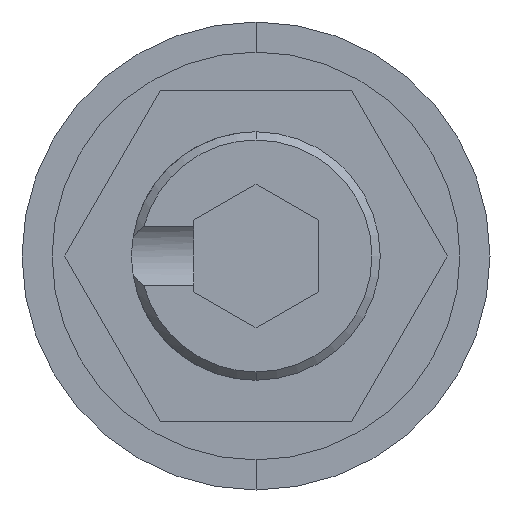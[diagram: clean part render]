
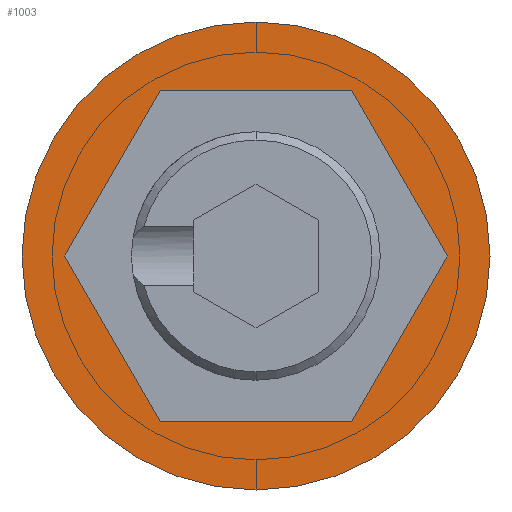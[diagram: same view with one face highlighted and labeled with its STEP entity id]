
A CAD part, front view. The second image highlights one B-rep face of the part: STEP entity #1003.
In plain terms, the highlighted planar face has unit normal (0, -1, 0).
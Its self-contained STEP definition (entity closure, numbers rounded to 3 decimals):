
#20 = LINE ( 'NONE', #1036, #394 ) ;
#86 = LINE ( 'NONE', #664, #876 ) ;
#101 = AXIS2_PLACEMENT_3D ( 'NONE', #852, #865, #2114 ) ;
#127 = FACE_BOUND ( 'NONE', #962, .T. ) ;
#132 = VERTEX_POINT ( 'NONE', #665 ) ;
#163 = EDGE_CURVE ( 'NONE', #1213, #132, #758, .T. ) ;
#243 = VERTEX_POINT ( 'NONE', #292 ) ;
#251 = DIRECTION ( 'NONE',  ( -1., 0., 0. ) ) ;
#272 = CARTESIAN_POINT ( 'NONE',  ( -2.309, 0., -4. ) ) ;
#286 = CARTESIAN_POINT ( 'NONE',  ( 2.309, 0., 4. ) ) ;
#292 = CARTESIAN_POINT ( 'NONE',  ( -2.309, 0., -4. ) ) ;
#297 = CARTESIAN_POINT ( 'NONE',  ( 0., 0., -5.65 ) ) ;
#300 = LINE ( 'NONE', #846, #2062 ) ;
#307 = EDGE_CURVE ( 'NONE', #697, #375, #882, .T. ) ;
#375 = VERTEX_POINT ( 'NONE', #1508 ) ;
#377 = ORIENTED_EDGE ( 'NONE', *, *, #1811, .T. ) ;
#394 = VECTOR ( 'NONE', #1522, 1000. ) ;
#434 = DIRECTION ( 'NONE',  ( 1., 0., 0. ) ) ;
#638 = ORIENTED_EDGE ( 'NONE', *, *, #163, .T. ) ;
#664 = CARTESIAN_POINT ( 'NONE',  ( 2.309, 0., -4. ) ) ;
#665 = CARTESIAN_POINT ( 'NONE',  ( 0., 0., 5.65 ) ) ;
#697 = VERTEX_POINT ( 'NONE', #730 ) ;
#709 = CARTESIAN_POINT ( 'NONE',  ( -4.619, 0., 0. ) ) ;
#730 = CARTESIAN_POINT ( 'NONE',  ( 4.619, 0., 0. ) ) ;
#748 = LINE ( 'NONE', #286, #1135 ) ;
#758 = CIRCLE ( 'NONE', #101, 5.65 ) ;
#768 = CIRCLE ( 'NONE', #1265, 5.65 ) ;
#776 = DIRECTION ( 'NONE',  ( 0.5, 0., 0.866 ) ) ;
#785 = ORIENTED_EDGE ( 'NONE', *, *, #1232, .F. ) ;
#792 = EDGE_LOOP ( 'NONE', ( #638, #377 ) ) ;
#846 = CARTESIAN_POINT ( 'NONE',  ( -2.309, 0., 4. ) ) ;
#852 = CARTESIAN_POINT ( 'NONE',  ( 0., 0., 0. ) ) ;
#865 = DIRECTION ( 'NONE',  ( 0., -1., 0. ) ) ;
#876 = VECTOR ( 'NONE', #776, 1000. ) ;
#879 = VERTEX_POINT ( 'NONE', #1078 ) ;
#882 = LINE ( 'NONE', #1064, #1169 ) ;
#902 = ORIENTED_EDGE ( 'NONE', *, *, #307, .F. ) ;
#962 = EDGE_LOOP ( 'NONE', ( #1099, #1299, #1189, #1082, #902, #785 ) ) ;
#976 = VERTEX_POINT ( 'NONE', #709 ) ;
#1003 = ADVANCED_FACE ( 'NONE', ( #127, #2047 ), #1025, .T. ) ;
#1004 = DIRECTION ( 'NONE',  ( -0.5, 0., -0.866 ) ) ;
#1025 = PLANE ( 'NONE',  #1668 ) ;
#1036 = CARTESIAN_POINT ( 'NONE',  ( -4.619, 0., 0. ) ) ;
#1064 = CARTESIAN_POINT ( 'NONE',  ( 4.619, 0., 0. ) ) ;
#1078 = CARTESIAN_POINT ( 'NONE',  ( -2.309, 0., 4. ) ) ;
#1082 = ORIENTED_EDGE ( 'NONE', *, *, #1589, .F. ) ;
#1099 = ORIENTED_EDGE ( 'NONE', *, *, #1630, .F. ) ;
#1135 = VECTOR ( 'NONE', #251, 1000. ) ;
#1160 = CARTESIAN_POINT ( 'NONE',  ( 0., 0., 0. ) ) ;
#1169 = VECTOR ( 'NONE', #2027, 1000. ) ;
#1189 = ORIENTED_EDGE ( 'NONE', *, *, #1827, .F. ) ;
#1210 = DIRECTION ( 'NONE',  ( 0., -1., 0. ) ) ;
#1213 = VERTEX_POINT ( 'NONE', #297 ) ;
#1221 = DIRECTION ( 'NONE',  ( 0., 0., -1. ) ) ;
#1232 = EDGE_CURVE ( 'NONE', #1666, #697, #86, .T. ) ;
#1265 = AXIS2_PLACEMENT_3D ( 'NONE', #1873, #1885, #1896 ) ;
#1299 = ORIENTED_EDGE ( 'NONE', *, *, #2115, .F. ) ;
#1508 = CARTESIAN_POINT ( 'NONE',  ( 2.309, 0., 4. ) ) ;
#1522 = DIRECTION ( 'NONE',  ( 0.5, 0., -0.866 ) ) ;
#1542 = VECTOR ( 'NONE', #434, 1000. ) ;
#1589 = EDGE_CURVE ( 'NONE', #375, #879, #748, .T. ) ;
#1592 = LINE ( 'NONE', #272, #1542 ) ;
#1630 = EDGE_CURVE ( 'NONE', #243, #1666, #1592, .T. ) ;
#1666 = VERTEX_POINT ( 'NONE', #1936 ) ;
#1668 = AXIS2_PLACEMENT_3D ( 'NONE', #1160, #1210, #1221 ) ;
#1811 = EDGE_CURVE ( 'NONE', #132, #1213, #768, .T. ) ;
#1827 = EDGE_CURVE ( 'NONE', #879, #976, #300, .T. ) ;
#1873 = CARTESIAN_POINT ( 'NONE',  ( 0., 0., 0. ) ) ;
#1885 = DIRECTION ( 'NONE',  ( 0., -1., 0. ) ) ;
#1896 = DIRECTION ( 'NONE',  ( 0., 0., -1. ) ) ;
#1936 = CARTESIAN_POINT ( 'NONE',  ( 2.309, 0., -4. ) ) ;
#2027 = DIRECTION ( 'NONE',  ( -0.5, 0., 0.866 ) ) ;
#2047 = FACE_OUTER_BOUND ( 'NONE', #792, .T. ) ;
#2062 = VECTOR ( 'NONE', #1004, 1000. ) ;
#2114 = DIRECTION ( 'NONE',  ( 0., 0., -1. ) ) ;
#2115 = EDGE_CURVE ( 'NONE', #976, #243, #20, .T. ) ;
